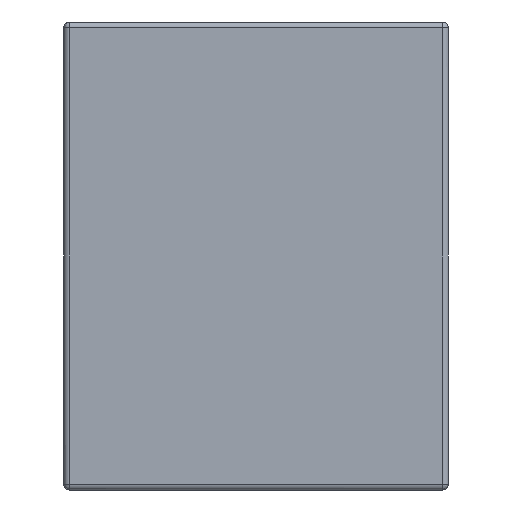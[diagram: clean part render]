
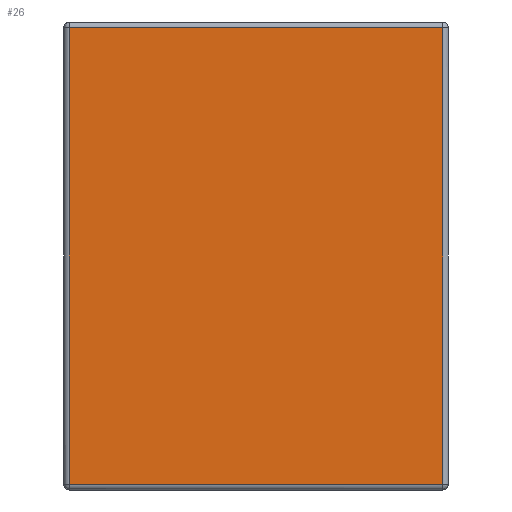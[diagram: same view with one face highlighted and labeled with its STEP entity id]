
A CAD part, front view. The second image highlights one B-rep face of the part: STEP entity #26.
In plain terms, the highlighted planar face has unit normal (0, -1, 0).
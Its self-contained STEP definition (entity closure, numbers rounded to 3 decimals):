
#26=ADVANCED_FACE('',(#64),#516,.T.);
#64=FACE_OUTER_BOUND('',#104,.T.);
#104=EDGE_LOOP('',(#173,#174,#175,#176));
#173=ORIENTED_EDGE('',*,*,#313,.T.);
#174=ORIENTED_EDGE('',*,*,#316,.T.);
#175=ORIENTED_EDGE('',*,*,#314,.T.);
#176=ORIENTED_EDGE('',*,*,#315,.T.);
#313=EDGE_CURVE('',#463,#464,#389,.T.);
#314=EDGE_CURVE('',#465,#466,#390,.T.);
#315=EDGE_CURVE('',#466,#463,#391,.T.);
#316=EDGE_CURVE('',#464,#465,#392,.T.);
#389=(
BOUNDED_CURVE()
B_SPLINE_CURVE(3,(#1621,#1622,#1623,#1624),.UNSPECIFIED.,.F.,.F.)
B_SPLINE_CURVE_WITH_KNOTS((4,4),(0.5,41.5),.UNSPECIFIED.)
CURVE()
GEOMETRIC_REPRESENTATION_ITEM()
RATIONAL_B_SPLINE_CURVE((1.,1.,1.,1.))
REPRESENTATION_ITEM('')
);
#390=(
BOUNDED_CURVE()
B_SPLINE_CURVE(3,(#1625,#1626,#1627,#1628),.UNSPECIFIED.,.F.,.F.)
B_SPLINE_CURVE_WITH_KNOTS((4,4),(0.5,41.5),.UNSPECIFIED.)
CURVE()
GEOMETRIC_REPRESENTATION_ITEM()
RATIONAL_B_SPLINE_CURVE((1.,1.,1.,1.))
REPRESENTATION_ITEM('')
);
#391=(
BOUNDED_CURVE()
B_SPLINE_CURVE(3,(#1629,#1630,#1631,#1632),.UNSPECIFIED.,.F.,.F.)
B_SPLINE_CURVE_WITH_KNOTS((4,4),(0.5,34.),.UNSPECIFIED.)
CURVE()
GEOMETRIC_REPRESENTATION_ITEM()
RATIONAL_B_SPLINE_CURVE((1.,1.,1.,1.))
REPRESENTATION_ITEM('')
);
#392=(
BOUNDED_CURVE()
B_SPLINE_CURVE(3,(#1633,#1634,#1635,#1636),.UNSPECIFIED.,.F.,.F.)
B_SPLINE_CURVE_WITH_KNOTS((4,4),(0.5,34.),.UNSPECIFIED.)
CURVE()
GEOMETRIC_REPRESENTATION_ITEM()
RATIONAL_B_SPLINE_CURVE((1.,1.,1.,1.))
REPRESENTATION_ITEM('')
);
#463=VERTEX_POINT('',#1455);
#464=VERTEX_POINT('',#1456);
#465=VERTEX_POINT('',#1457);
#466=VERTEX_POINT('',#1458);
#516=PLANE('',#544);
#544=AXIS2_PLACEMENT_3D('',#622,#555,$);
#555=DIRECTION('',(0.,-1.,0.));
#622=CARTESIAN_POINT('',(-36.702,-31.897,42.058));
#1455=CARTESIAN_POINT('',(-37.202,-31.897,0.558));
#1456=CARTESIAN_POINT('',(-37.202,-31.897,41.558));
#1457=CARTESIAN_POINT('',(-70.702,-31.897,41.558));
#1458=CARTESIAN_POINT('',(-70.702,-31.897,0.558));
#1621=CARTESIAN_POINT('',(-37.202,-31.897,0.558));
#1622=CARTESIAN_POINT('',(-37.202,-31.897,14.225));
#1623=CARTESIAN_POINT('',(-37.202,-31.897,27.892));
#1624=CARTESIAN_POINT('',(-37.202,-31.897,41.558));
#1625=CARTESIAN_POINT('',(-70.702,-31.897,41.558));
#1626=CARTESIAN_POINT('',(-70.702,-31.897,27.892));
#1627=CARTESIAN_POINT('',(-70.702,-31.897,14.225));
#1628=CARTESIAN_POINT('',(-70.702,-31.897,0.558));
#1629=CARTESIAN_POINT('',(-70.702,-31.897,0.558));
#1630=CARTESIAN_POINT('',(-59.536,-31.897,0.558));
#1631=CARTESIAN_POINT('',(-48.369,-31.897,0.558));
#1632=CARTESIAN_POINT('',(-37.202,-31.897,0.558));
#1633=CARTESIAN_POINT('',(-37.202,-31.897,41.558));
#1634=CARTESIAN_POINT('',(-48.369,-31.897,41.558));
#1635=CARTESIAN_POINT('',(-59.536,-31.897,41.558));
#1636=CARTESIAN_POINT('',(-70.702,-31.897,41.558));
